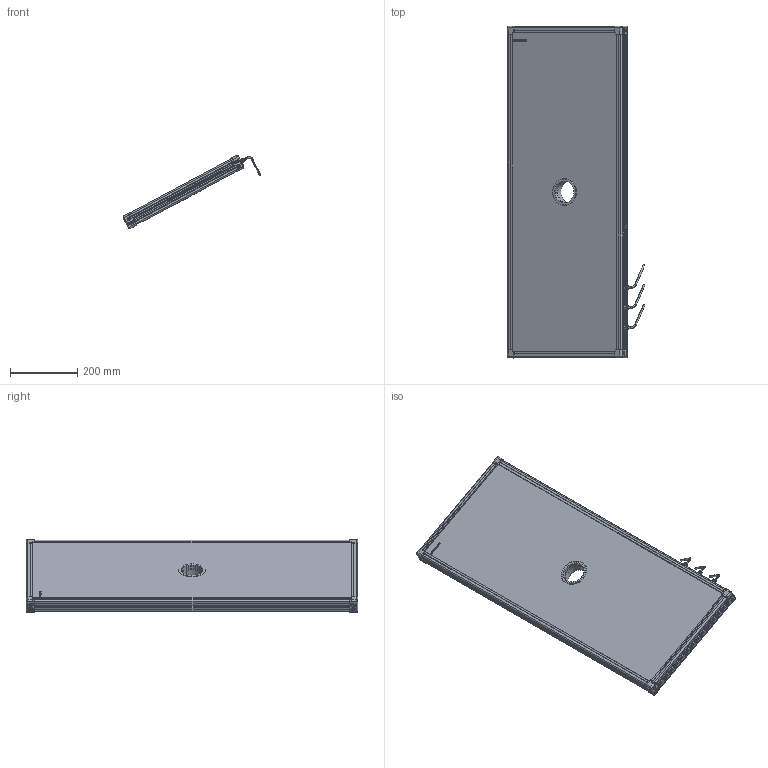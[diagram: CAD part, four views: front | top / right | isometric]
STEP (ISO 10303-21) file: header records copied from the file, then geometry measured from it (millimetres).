
FILE_DESCRIPTION (( 'STEP AP214' ), '1' );
FILE_NAME ('EFFI-FD-350-950-ZZZ-3M12.STEP', '2021-06-24T07:40:54', ( '' ), ( '' ), 'SwSTEP 2.0', 'SolidWorks 2021', '' );
FILE_SCHEMA (( 'AUTOMOTIVE_DESIGN' ));
Length unit declared in the file: millimetre
Products named in the file (13): 004408; petite joue; petite joue + vis; 000590; Assemblage Ø65; profile Y_PERCE; 004409; cordon_Avec cable; Pièce13^EFFI-FD-XXX-YYY-ZZZ (3 connecteurs) Ø65; profile X_PERCE; 000629; EFFI-FD-350-950-ZZZ-3M12
Assembly tree (21 placements, depth 3):
  EFFI-FD-350-950-ZZZ-3M12
    profile X_PERCE  x2
    profile Y_PERCE
    profile Y_PERCE
    Pièce13^EFFI-FD-XXX-YYY-ZZZ (3 connecteurs) Ø65
    petite joue + vis  x4
      petite joue
      000629
    Assemblage Ø65
      004408
      004409
      000590  x3
    cordon_Avec cable  x3
Bounding box: 410.42 x 989 x 217.5 mm (x, y, z)
Volume: 13214501 mm3; surface area: 1211981.5 mm2
Topology: 22 solids, 40 shells, 4128 faces, 10950 edges, 7183 vertices
Faces by surface type: plane 2537, cylinder 761, bspline 609, cone 158, torus 55, sphere 8
Entity records: 57340 total; most frequent: CARTESIAN_POINT 22845, ORIENTED_EDGE 7186, DIRECTION 5938, EDGE_CURVE 3597, VECTOR 2502, LINE 2502, VERTEX_POINT 2364, AXIS2_PLACEMENT_3D 1718
